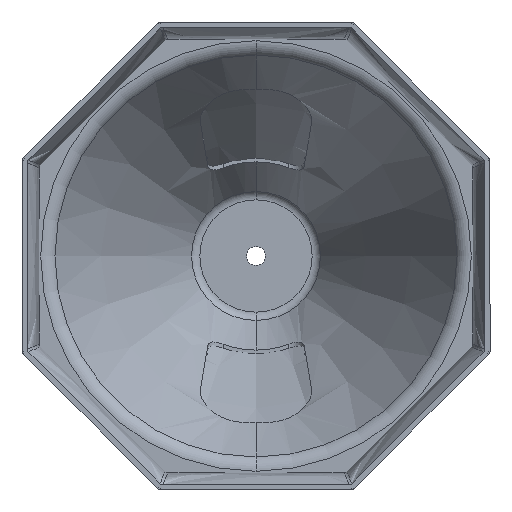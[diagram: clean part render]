
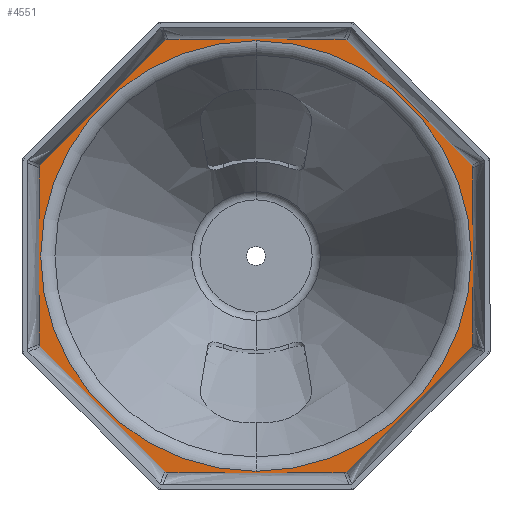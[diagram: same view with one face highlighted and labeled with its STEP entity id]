
A CAD part, front view. The second image highlights one B-rep face of the part: STEP entity #4551.
In plain terms, the highlighted planar face has unit normal (0, -1, 0).
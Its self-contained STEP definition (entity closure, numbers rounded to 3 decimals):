
#415 = DIRECTION ( 'NONE',  ( 0.707, 0., -0.707 ) ) ;
#437 = VERTEX_POINT ( 'NONE', #2087 ) ;
#472 = VECTOR ( 'NONE', #415, 1000. ) ;
#474 = EDGE_CURVE ( 'NONE', #4752, #5258, #8080, .T. ) ;
#495 = CARTESIAN_POINT ( 'NONE',  ( -183.848, -4., -183.848 ) ) ;
#708 = DIRECTION ( 'NONE',  ( 0., -1., 0. ) ) ;
#781 = FACE_BOUND ( 'NONE', #6859, .T. ) ;
#886 = CARTESIAN_POINT ( 'NONE',  ( 183.848, -4., 183.848 ) ) ;
#943 = LINE ( 'NONE', #495, #472 ) ;
#1009 = DIRECTION ( 'NONE',  ( -0.707, 0., 0.707 ) ) ;
#1152 = CARTESIAN_POINT ( 'NONE',  ( 0., -4., 0. ) ) ;
#1155 = EDGE_CURVE ( 'NONE', #3174, #8395, #6493, .T. ) ;
#1295 = ORIENTED_EDGE ( 'NONE', *, *, #1940, .T. ) ;
#1297 = EDGE_CURVE ( 'NONE', #6757, #2926, #4330, .T. ) ;
#1342 = VECTOR ( 'NONE', #4671, 1000. ) ;
#1536 = LINE ( 'NONE', #4668, #1342 ) ;
#1544 = CARTESIAN_POINT ( 'NONE',  ( -107.696, -4., 260. ) ) ;
#1551 = AXIS2_PLACEMENT_3D ( 'NONE', #1152, #708, #9077 ) ;
#1818 = VERTEX_POINT ( 'NONE', #1544 ) ;
#1940 = EDGE_CURVE ( 'NONE', #1818, #6757, #5401, .T. ) ;
#2087 = CARTESIAN_POINT ( 'NONE',  ( -107.696, -4., -260. ) ) ;
#2476 = VECTOR ( 'NONE', #1009, 1000. ) ;
#2486 = LINE ( 'NONE', #886, #2476 ) ;
#2569 = EDGE_CURVE ( 'NONE', #5258, #4752, #4165, .T. ) ;
#2926 = VERTEX_POINT ( 'NONE', #5899 ) ;
#2978 = VERTEX_POINT ( 'NONE', #4474 ) ;
#3129 = CARTESIAN_POINT ( 'NONE',  ( 0., -4., 0. ) ) ;
#3133 = DIRECTION ( 'NONE',  ( 0., -1., 0. ) ) ;
#3140 = DIRECTION ( 'NONE',  ( 0., 0., -1. ) ) ;
#3174 = VERTEX_POINT ( 'NONE', #5895 ) ;
#3214 = DIRECTION ( 'NONE',  ( 1., 0., 0. ) ) ;
#3249 = FACE_OUTER_BOUND ( 'NONE', #8186, .T. ) ;
#3464 = CARTESIAN_POINT ( 'NONE',  ( 0., -4., -260. ) ) ;
#3526 = LINE ( 'NONE', #3464, #8574 ) ;
#3545 = ORIENTED_EDGE ( 'NONE', *, *, #6903, .T. ) ;
#3592 = EDGE_CURVE ( 'NONE', #8395, #8551, #2486, .T. ) ;
#3608 = DIRECTION ( 'NONE',  ( -0.707, 0., -0.707 ) ) ;
#3611 = CARTESIAN_POINT ( 'NONE',  ( -183.848, -4., 183.848 ) ) ;
#4045 = ORIENTED_EDGE ( 'NONE', *, *, #9118, .T. ) ;
#4165 = CIRCLE ( 'NONE', #1551, 252.988 ) ;
#4316 = EDGE_CURVE ( 'NONE', #8551, #1818, #1536, .T. ) ;
#4330 = LINE ( 'NONE', #8717, #6484 ) ;
#4474 = CARTESIAN_POINT ( 'NONE',  ( 107.696, -4., -260. ) ) ;
#4504 = ORIENTED_EDGE ( 'NONE', *, *, #3592, .T. ) ;
#4551 = ADVANCED_FACE ( 'NONE', ( #3249, #781 ), #4998, .T. ) ;
#4668 = CARTESIAN_POINT ( 'NONE',  ( 0., -4., 260. ) ) ;
#4671 = DIRECTION ( 'NONE',  ( -1., 0., 0. ) ) ;
#4752 = VERTEX_POINT ( 'NONE', #5058 ) ;
#4772 = AXIS2_PLACEMENT_3D ( 'NONE', #3129, #3133, #3140 ) ;
#4874 = DIRECTION ( 'NONE',  ( 0., -1., 0. ) ) ;
#4958 = CARTESIAN_POINT ( 'NONE',  ( 0., -4., -252.988 ) ) ;
#4998 = PLANE ( 'NONE',  #7803 ) ;
#5006 = DIRECTION ( 'NONE',  ( 0., 0., -1. ) ) ;
#5058 = CARTESIAN_POINT ( 'NONE',  ( 0., -4., -252.988 ) ) ;
#5215 = CARTESIAN_POINT ( 'NONE',  ( -260., -4., 107.696 ) ) ;
#5258 = VERTEX_POINT ( 'NONE', #8903 ) ;
#5295 = LINE ( 'NONE', #7799, #8677 ) ;
#5401 = LINE ( 'NONE', #3611, #5469 ) ;
#5426 = CARTESIAN_POINT ( 'NONE',  ( 107.696, -4., 260. ) ) ;
#5469 = VECTOR ( 'NONE', #3608, 1000. ) ;
#5868 = ORIENTED_EDGE ( 'NONE', *, *, #4316, .T. ) ;
#5895 = CARTESIAN_POINT ( 'NONE',  ( 260., -4., -107.696 ) ) ;
#5899 = CARTESIAN_POINT ( 'NONE',  ( -260., -4., -107.696 ) ) ;
#6092 = ORIENTED_EDGE ( 'NONE', *, *, #2569, .F. ) ;
#6251 = CARTESIAN_POINT ( 'NONE',  ( 260., -4., 107.696 ) ) ;
#6428 = DIRECTION ( 'NONE',  ( 0.707, 0., 0.707 ) ) ;
#6448 = VECTOR ( 'NONE', #8299, 1000. ) ;
#6484 = VECTOR ( 'NONE', #7848, 1000. ) ;
#6493 = LINE ( 'NONE', #7537, #6448 ) ;
#6757 = VERTEX_POINT ( 'NONE', #5215 ) ;
#6859 = EDGE_LOOP ( 'NONE', ( #7470, #6092 ) ) ;
#6903 = EDGE_CURVE ( 'NONE', #437, #2978, #3526, .T. ) ;
#7470 = ORIENTED_EDGE ( 'NONE', *, *, #474, .F. ) ;
#7537 = CARTESIAN_POINT ( 'NONE',  ( 260., -4., 0. ) ) ;
#7676 = ORIENTED_EDGE ( 'NONE', *, *, #8124, .T. ) ;
#7799 = CARTESIAN_POINT ( 'NONE',  ( 183.848, -4., -183.848 ) ) ;
#7803 = AXIS2_PLACEMENT_3D ( 'NONE', #4958, #4874, #5006 ) ;
#7848 = DIRECTION ( 'NONE',  ( 0., 0., -1. ) ) ;
#7956 = ORIENTED_EDGE ( 'NONE', *, *, #1155, .T. ) ;
#7969 = ORIENTED_EDGE ( 'NONE', *, *, #1297, .T. ) ;
#8080 = CIRCLE ( 'NONE', #4772, 252.988 ) ;
#8124 = EDGE_CURVE ( 'NONE', #2926, #437, #943, .T. ) ;
#8186 = EDGE_LOOP ( 'NONE', ( #4045, #7956, #4504, #5868, #1295, #7969, #7676, #3545 ) ) ;
#8299 = DIRECTION ( 'NONE',  ( 0., 0., 1. ) ) ;
#8395 = VERTEX_POINT ( 'NONE', #6251 ) ;
#8551 = VERTEX_POINT ( 'NONE', #5426 ) ;
#8574 = VECTOR ( 'NONE', #3214, 1000. ) ;
#8677 = VECTOR ( 'NONE', #6428, 1000. ) ;
#8717 = CARTESIAN_POINT ( 'NONE',  ( -260., -4., 0. ) ) ;
#8903 = CARTESIAN_POINT ( 'NONE',  ( 0., -4., 252.988 ) ) ;
#9077 = DIRECTION ( 'NONE',  ( 0., 0., -1. ) ) ;
#9118 = EDGE_CURVE ( 'NONE', #2978, #3174, #5295, .T. ) ;
